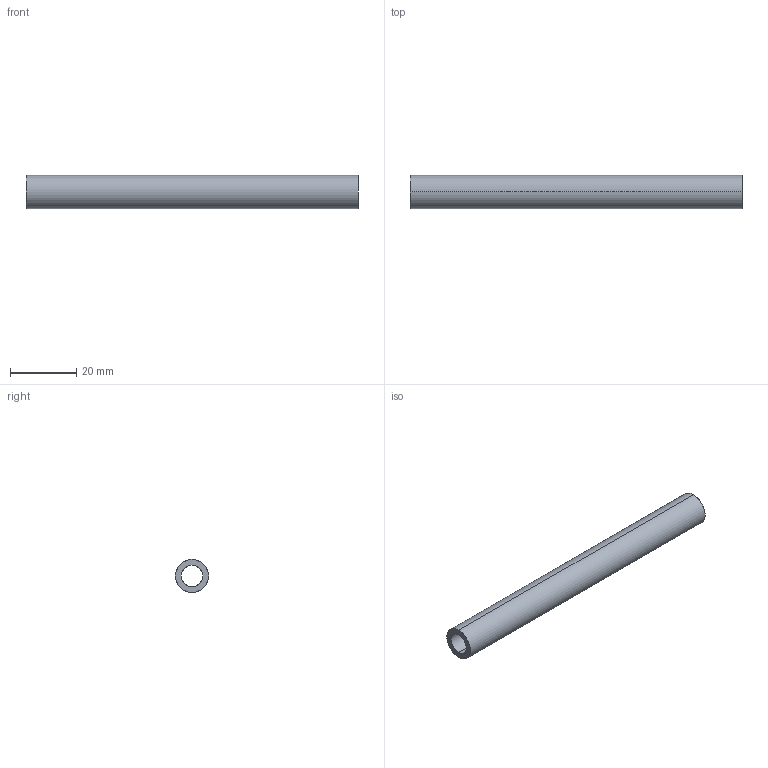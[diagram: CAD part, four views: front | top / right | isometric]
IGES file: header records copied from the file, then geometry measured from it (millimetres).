
Start section: SolidWorks IGES file using analytic representation for surfaces
Global section: file name: C:\Users\Toshiba\Desktop\100P-10-6.5.IGS; native system: SolidWorks 2014; preprocessor: SolidWorks 2014; author: Toshiba; date: 160308.163457; units: millimetre
Bounding box: 100 x 10 x 10 mm (x, y, z)
Surface area: 5274.3 mm2 (no closed solid volume)
Topology: 0 solids, 0 shells, 6 faces, 144 edges, 144 vertices
Faces by surface type: revolution 4, bspline 2
